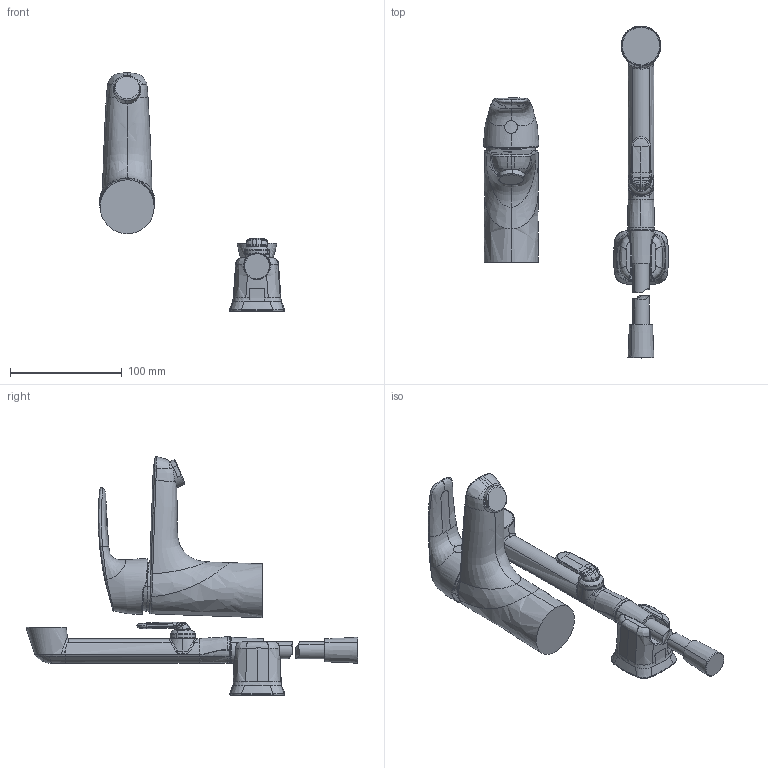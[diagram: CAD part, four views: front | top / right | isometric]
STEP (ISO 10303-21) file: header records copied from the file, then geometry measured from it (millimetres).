
FILE_DESCRIPTION (( 'STEP AP203' ), '1' );
FILE_NAME ('1012F-102(2023)+1012F-102(2023)+1012F-104(2023)+1012F-105(2023).STEP', '2023-09-20T05:46:35', ( '' ), ( '' ), 'SwSTEP 2.0', 'SolidWorks 2016', '' );
FILE_SCHEMA (( 'CONFIG_CONTROL_DESIGN' ));
Products named in the file (1): 1012F-102(2023)+1012F-102(2023)+1012F-104(2023)+1012F-105(2023)
Bounding box: 165.58 x 296.68 x 213.04 mm (x, y, z)
Volume: 539365.2 mm3; surface area: 83982.7 mm2
Topology: 10 solids, 10 shells, 336 faces, 810 edges, 494 vertices
Faces by surface type: bspline 261, cone 25, plane 23, cylinder 17, torus 8, sphere 2
Entity records: 85422 total; most frequent: CARTESIAN_POINT 79695, ORIENTED_EDGE 1616, EDGE_CURVE 808, DIRECTION 540, VERTEX_POINT 494, B_SPLINE_CURVE_WITH_KNOTS 462, EDGE_LOOP 338, ADVANCED_FACE 336
